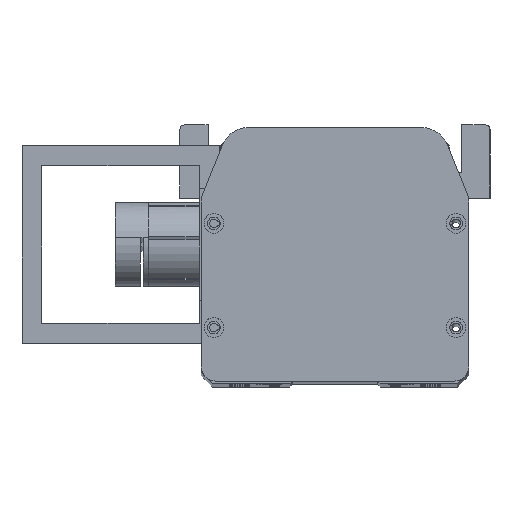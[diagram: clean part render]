
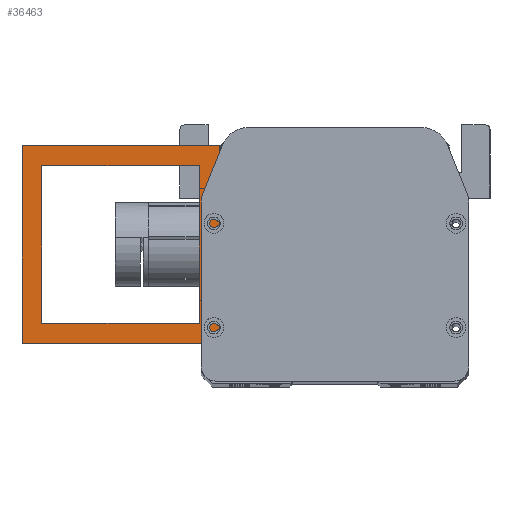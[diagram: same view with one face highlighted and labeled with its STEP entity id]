
A CAD part, top view. The second image highlights one B-rep face of the part: STEP entity #36463.
In plain terms, the highlighted planar face has unit normal (0, 0, 1) as drawn and (0, 0, -1) by its records, which use the part's own axes.
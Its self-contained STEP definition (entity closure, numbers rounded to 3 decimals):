
#862 = DIRECTION ( 'NONE',  ( 0., -1., 0. ) ) ;
#957 = EDGE_CURVE ( 'NONE', #52365, #10834, #11283, .T. ) ;
#3170 = DIRECTION ( 'NONE',  ( 0., 1., 0. ) ) ;
#4905 = VECTOR ( 'NONE', #31852, 1000. ) ;
#5434 = VERTEX_POINT ( 'NONE', #53449 ) ;
#5846 = LINE ( 'NONE', #16001, #50274 ) ;
#6751 = EDGE_CURVE ( 'NONE', #15246, #40926, #5846, .T. ) ;
#8532 = CARTESIAN_POINT ( 'NONE',  ( 35., 35., 0. ) ) ;
#8821 = CARTESIAN_POINT ( 'NONE',  ( 28., -28., 0. ) ) ;
#10834 = VERTEX_POINT ( 'NONE', #53160 ) ;
#11283 = LINE ( 'NONE', #28102, #55741 ) ;
#12393 = CARTESIAN_POINT ( 'NONE',  ( -28., -28., 0. ) ) ;
#12997 = DIRECTION ( 'NONE',  ( 0., 1., 0. ) ) ;
#13702 = DIRECTION ( 'NONE',  ( 0., 0., -1. ) ) ;
#13824 = CARTESIAN_POINT ( 'NONE',  ( -35., -35., 0. ) ) ;
#14845 = EDGE_CURVE ( 'NONE', #34703, #5434, #31276, .T. ) ;
#14871 = ORIENTED_EDGE ( 'NONE', *, *, #6751, .F. ) ;
#15246 = VERTEX_POINT ( 'NONE', #48961 ) ;
#15314 = DIRECTION ( 'NONE',  ( -1., 0., 0. ) ) ;
#15341 = CARTESIAN_POINT ( 'NONE',  ( 28., 28., 0. ) ) ;
#16001 = CARTESIAN_POINT ( 'NONE',  ( 35., -35., 0. ) ) ;
#16549 = VERTEX_POINT ( 'NONE', #32083 ) ;
#16565 = VECTOR ( 'NONE', #43339, 1000. ) ;
#17910 = EDGE_CURVE ( 'NONE', #16549, #41056, #49772, .T. ) ;
#18379 = EDGE_LOOP ( 'NONE', ( #14871, #52750, #25432, #51549 ) ) ;
#18423 = ORIENTED_EDGE ( 'NONE', *, *, #14845, .T. ) ;
#19174 = ORIENTED_EDGE ( 'NONE', *, *, #35861, .T. ) ;
#19598 = FACE_BOUND ( 'NONE', #53322, .T. ) ;
#19829 = VECTOR ( 'NONE', #50334, 1000. ) ;
#20831 = AXIS2_PLACEMENT_3D ( 'NONE', #30827, #13702, #43776 ) ;
#22645 = CARTESIAN_POINT ( 'NONE',  ( -28., -28., 0. ) ) ;
#25056 = LINE ( 'NONE', #8821, #35161 ) ;
#25432 = ORIENTED_EDGE ( 'NONE', *, *, #17910, .F. ) ;
#27776 = EDGE_CURVE ( 'NONE', #41056, #15246, #55401, .T. ) ;
#28102 = CARTESIAN_POINT ( 'NONE',  ( -28., 28., 0. ) ) ;
#28493 = ORIENTED_EDGE ( 'NONE', *, *, #957, .T. ) ;
#30827 = CARTESIAN_POINT ( 'NONE',  ( 0., 0., 0. ) ) ;
#31276 = LINE ( 'NONE', #33032, #19829 ) ;
#31852 = DIRECTION ( 'NONE',  ( 1., 0., 0. ) ) ;
#32083 = CARTESIAN_POINT ( 'NONE',  ( -35., 35., 0. ) ) ;
#32900 = VECTOR ( 'NONE', #48413, 1000. ) ;
#33032 = CARTESIAN_POINT ( 'NONE',  ( -28., -28., 0. ) ) ;
#33687 = ORIENTED_EDGE ( 'NONE', *, *, #49736, .T. ) ;
#34703 = VERTEX_POINT ( 'NONE', #12393 ) ;
#35159 = PLANE ( 'NONE',  #20831 ) ;
#35161 = VECTOR ( 'NONE', #12997, 1000. ) ;
#35639 = VECTOR ( 'NONE', #862, 1000. ) ;
#35861 = EDGE_CURVE ( 'NONE', #5434, #52365, #25056, .T. ) ;
#36463 = ADVANCED_FACE ( 'NONE', ( #51223, #19598 ), #35159, .T. ) ;
#40926 = VERTEX_POINT ( 'NONE', #8532 ) ;
#41056 = VERTEX_POINT ( 'NONE', #13824 ) ;
#42144 = LINE ( 'NONE', #47644, #16565 ) ;
#43339 = DIRECTION ( 'NONE',  ( -1., 0., 0. ) ) ;
#43776 = DIRECTION ( 'NONE',  ( -1., 0., 0. ) ) ;
#44322 = LINE ( 'NONE', #22645, #32900 ) ;
#45882 = EDGE_CURVE ( 'NONE', #40926, #16549, #42144, .T. ) ;
#47644 = CARTESIAN_POINT ( 'NONE',  ( -35., 35., 0. ) ) ;
#47716 = CARTESIAN_POINT ( 'NONE',  ( -35., -35., 0. ) ) ;
#48413 = DIRECTION ( 'NONE',  ( 0., -1., 0. ) ) ;
#48961 = CARTESIAN_POINT ( 'NONE',  ( 35., -35., 0. ) ) ;
#49736 = EDGE_CURVE ( 'NONE', #10834, #34703, #44322, .T. ) ;
#49772 = LINE ( 'NONE', #47716, #35639 ) ;
#50274 = VECTOR ( 'NONE', #3170, 1000. ) ;
#50334 = DIRECTION ( 'NONE',  ( 1., 0., 0. ) ) ;
#51223 = FACE_OUTER_BOUND ( 'NONE', #18379, .T. ) ;
#51549 = ORIENTED_EDGE ( 'NONE', *, *, #45882, .F. ) ;
#52365 = VERTEX_POINT ( 'NONE', #15341 ) ;
#52750 = ORIENTED_EDGE ( 'NONE', *, *, #27776, .F. ) ;
#53160 = CARTESIAN_POINT ( 'NONE',  ( -28., 28., 0. ) ) ;
#53298 = CARTESIAN_POINT ( 'NONE',  ( -35., -35., 0. ) ) ;
#53322 = EDGE_LOOP ( 'NONE', ( #18423, #19174, #28493, #33687 ) ) ;
#53449 = CARTESIAN_POINT ( 'NONE',  ( 28., -28., 0. ) ) ;
#55401 = LINE ( 'NONE', #53298, #4905 ) ;
#55741 = VECTOR ( 'NONE', #15314, 1000. ) ;
